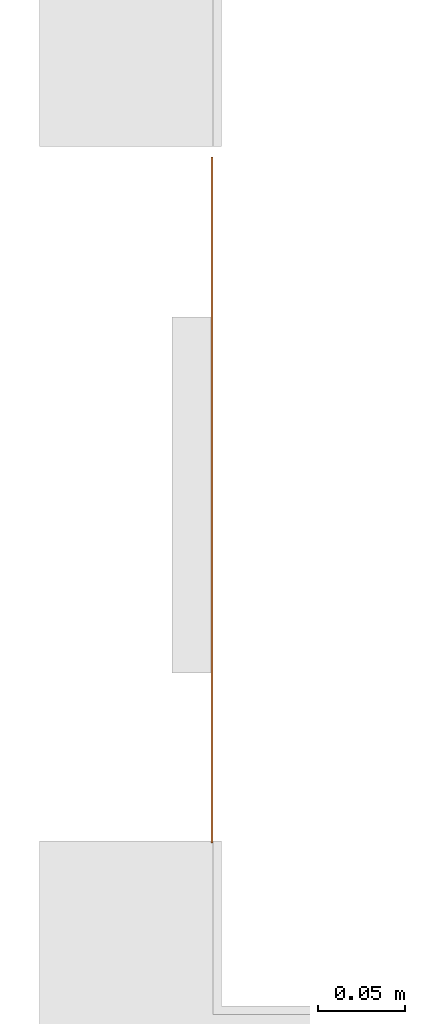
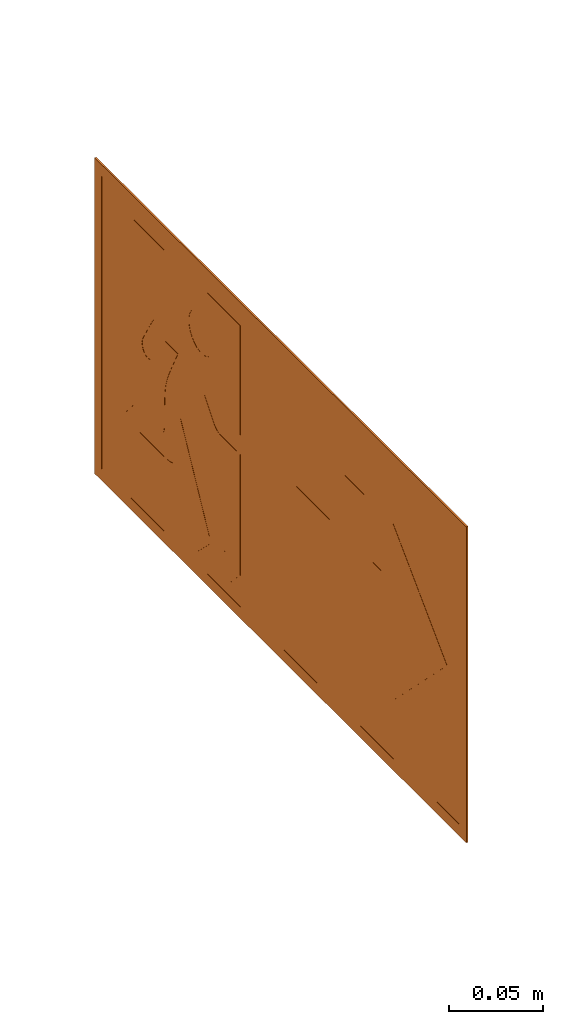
# One storey, part 48 of 119: 1 proxy.
"""IFC2X3 building model written with IfcOpenShell, lengths in metres."""

from ifc_helpers import new_model, entity, si_unit, converted_unit, derived_unit, direction, frame, frame_2d, origin, origin_2d_with_axis, place, context, subcontext, project, spatial, polyline, circle_curve, parameter, trimmed, segment, composite_curve, rectangle, outline, extrude, source, transform, mapped, material, material_list, type_object, type_shapes, element, save


model = new_model("IFC2X3")

# Units and contexts
model_context = context("Model", 3, precision=1e-05, world=origin(), true_north=direction((6.12303176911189e-17, 1.0)))
body_context = subcontext(model_context, "Body", "Model", "MODEL_VIEW")
ifc_project = project(units=[si_unit("LENGTHUNIT", "METRE"), si_unit("AREAUNIT", "SQUARE_METRE"), si_unit("VOLUMEUNIT", "CUBIC_METRE"), converted_unit("PLANEANGLEUNIT", "DEGREE", entity("IfcRatioMeasure", 0.0174532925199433), si_unit("PLANEANGLEUNIT", "RADIAN"), dimensions=[0, 0, 0, 0, 0, 0, 0]), si_unit("MASSUNIT", "GRAM", prefix="KILO"), derived_unit("MASSDENSITYUNIT", [(si_unit("MASSUNIT", "GRAM", prefix="KILO"), 1), (si_unit("LENGTHUNIT", "METRE"), -3)]), derived_unit("MOMENTOFINERTIAUNIT", [(si_unit("LENGTHUNIT", "METRE"), 4)]), si_unit("TIMEUNIT", "SECOND"), si_unit("FREQUENCYUNIT", "HERTZ"), si_unit("THERMODYNAMICTEMPERATUREUNIT", "DEGREE_CELSIUS"), derived_unit("THERMALTRANSMITTANCEUNIT", [(si_unit("MASSUNIT", "GRAM", prefix="KILO"), 1), (si_unit("THERMODYNAMICTEMPERATUREUNIT", "KELVIN"), -1), (si_unit("TIMEUNIT", "SECOND"), -3)]), derived_unit("VOLUMETRICFLOWRATEUNIT", [(si_unit("LENGTHUNIT", "METRE"), 3), (si_unit("TIMEUNIT", "SECOND"), -1)]), si_unit("ELECTRICCURRENTUNIT", "AMPERE"), si_unit("ELECTRICVOLTAGEUNIT", "VOLT"), si_unit("POWERUNIT", "WATT"), si_unit("FORCEUNIT", "NEWTON", prefix="KILO"), si_unit("ILLUMINANCEUNIT", "LUX"), si_unit("LUMINOUSFLUXUNIT", "LUMEN"), si_unit("LUMINOUSINTENSITYUNIT", "CANDELA"), derived_unit("USERDEFINED", [(si_unit("MASSUNIT", "GRAM", prefix="KILO"), -1), (si_unit("LENGTHUNIT", "METRE"), -2), (si_unit("TIMEUNIT", "SECOND"), 3), (si_unit("LUMINOUSFLUXUNIT", "LUMEN"), 1)]), derived_unit("LINEARVELOCITYUNIT", [(si_unit("LENGTHUNIT", "METRE"), 1), (si_unit("TIMEUNIT", "SECOND"), -1)]), si_unit("PRESSUREUNIT", "PASCAL"), derived_unit("USERDEFINED", [(si_unit("LENGTHUNIT", "METRE"), -2), (si_unit("MASSUNIT", "GRAM", prefix="KILO"), 1), (si_unit("TIMEUNIT", "SECOND"), -2)]), derived_unit("LINEARFORCEUNIT", [(si_unit("MASSUNIT", "GRAM", prefix="KILO"), 1), (si_unit("LENGTHUNIT", "METRE"), 1), (si_unit("TIMEUNIT", "SECOND"), -2), (si_unit("LENGTHUNIT", "METRE"), -1)]), derived_unit("PLANARFORCEUNIT", [(si_unit("MASSUNIT", "GRAM", prefix="KILO"), 1), (si_unit("LENGTHUNIT", "METRE"), 1), (si_unit("TIMEUNIT", "SECOND"), -2), (si_unit("LENGTHUNIT", "METRE"), -2)])], contexts=[model_context])

# Site, building, storey
site_placement = place(None, origin())
site = spatial("IfcSite", under=ifc_project, at=site_placement, Name="Default", CompositionType="ELEMENT")
building_placement = place(site_placement, origin())
building = spatial("IfcBuilding", under=site, at=building_placement, CompositionType="ELEMENT")
storey_placement = place(building_placement, origin())
storey = spatial("IfcBuildingStorey", under=building, at=storey_placement, Name="PAV. 01 - TÉRREO", CompositionType="ELEMENT", Elevation=0.0)

# Proxy
ifc_material_1 = material(Name="Plastico branco")
ifc_material_2 = material(Name="Plastico Verde")
ifc_material_list = material_list([ifc_material_1, ifc_material_2])
building_element_proxy_type = type_object("IfcBuildingElementProxyType", Name="Sinalização de orientação - S01 - Indicação do sentido da saída de emergência direita:Distância 12m", PredefinedType="NOTDEFINED", material=ifc_material_1)
shared_shape = source(origin(), body_context, "Body", "SweptSolid", [
    extrude(outline(polyline([(0.0124622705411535, 0.0340163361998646), (0.0116069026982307, 0.0335634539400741), (0.0110082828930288, 0.0323153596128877), (0.0106205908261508, 0.0304379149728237), (0.0103980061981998, 0.0280969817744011), (0.0102947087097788, 0.0254584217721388), (0.0102359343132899, 0.0148408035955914), (0.0100952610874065, 0.0101688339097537), (0.00995272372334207, 0.00797089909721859), (0.00974625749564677, 0.00585117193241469), (0.00946401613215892, 0.00379928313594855), (0.00909414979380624, 0.0018048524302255), (0.00861827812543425, -0.000162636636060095), (0.00799797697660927, -0.00219550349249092), (0.00719098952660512, -0.00439788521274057), (0.00615505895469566, -0.0068739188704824), (0.00484792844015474, -0.00972774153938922), (0.00322734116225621, -0.0130634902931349), (-0.00393772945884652, -0.0270036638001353), (0.00911414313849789, -0.0269659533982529), (0.00975353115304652, -0.0269418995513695), (0.0101589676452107, -0.0269097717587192), (0.0104072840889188, -0.0268684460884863), (0.0105753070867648, -0.026816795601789), (0.0107283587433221, -0.0267465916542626), (0.0108956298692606, -0.0266273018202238), (0.0110992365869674, -0.0264240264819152), (0.0113612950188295, -0.02610186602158), (0.0117039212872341, -0.02562592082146), (0.0121492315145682, -0.0249612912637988), (0.0134363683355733, -0.022926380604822), (0.0220622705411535, -0.00866366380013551), (0.0231418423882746, -0.00739752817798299), (0.024244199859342, -0.00641124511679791), (0.0253551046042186, -0.00568750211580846), (0.026460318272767, -0.0052089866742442), (0.0275456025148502, -0.00495838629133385), (0.0285967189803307, -0.00491838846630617), (0.0295994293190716, -0.00507168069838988), (0.0305394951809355, -0.00540095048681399), (0.0314026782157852, -0.00588888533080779), (0.0321747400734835, -0.00651817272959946), (0.0328414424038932, -0.0072715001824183), (0.033388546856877, -0.00813155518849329), (0.0338018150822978, -0.00908102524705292), (0.0340670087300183, -0.0101025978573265), (0.0341698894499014, -0.0111789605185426), (0.0340962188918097, -0.0122928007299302), (0.0338317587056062, -0.0134268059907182), (0.0333622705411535, -0.0145636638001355), (0.027258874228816, -0.0250738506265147), (0.0231922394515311, -0.0317577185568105), (0.020455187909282, -0.0355759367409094), (0.0183405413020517, -0.0374891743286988), (0.0161486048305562, -0.0384492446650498), (0.0134863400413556, -0.0390450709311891), (0.0103684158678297, -0.0393831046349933), (0.00683771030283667, -0.0395364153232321), (-0.0223273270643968, -0.0395794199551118), (-0.0254276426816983, -0.0395207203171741), (-0.0281392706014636, -0.0392326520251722), (-0.0306250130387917, -0.0385308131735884), (-0.0330476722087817, -0.0372308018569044), (-0.0355700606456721, -0.0351482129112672), (-0.0383972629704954, -0.0320852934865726), (-0.0418729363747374, -0.0278005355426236), (-0.0522577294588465, -0.0145636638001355), (-0.0701177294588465, -0.0145636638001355), (-0.0701177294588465, -0.0855036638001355), (0.0426422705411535, -0.0855036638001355), (0.0426422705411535, 0.0290963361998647), (0.0481022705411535, 0.0290963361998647), (0.0680622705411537, 0.0537563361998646), (0.0426422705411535, 0.0537563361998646), (0.0426422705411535, 0.0764363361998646), (0.0551222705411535, 0.0891363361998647), (-0.0240977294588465, 0.0891363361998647), (-0.0371577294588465, 0.0764363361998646), (-0.0542977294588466, 0.0764363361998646), (-0.039344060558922, 0.0891363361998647), (-0.0579777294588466, 0.0891363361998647), (-0.0701177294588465, 0.0764363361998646), (-0.0701177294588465, -0.00182366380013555), (-0.0500921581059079, -0.00182052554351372), (-0.048376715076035, -0.00187323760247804), (-0.0469973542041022, -0.00203451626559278), (-0.0458400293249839, -0.00235707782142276), (-0.0447906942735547, -0.00289363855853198), (-0.0437353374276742, -0.0036968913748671), (-0.0425823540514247, -0.00480435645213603), (-0.0413011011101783, -0.00621227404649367), (-0.0398712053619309, -0.00790993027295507), (-0.0322577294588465, -0.0173836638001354), (-0.0217377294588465, 0.00417633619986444), (-0.0542977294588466, 0.0709363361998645), (-0.0371577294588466, 0.0709363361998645), (-0.00639772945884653, 0.0127763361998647), (-0.00393772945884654, 0.0340163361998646), (-0.00373167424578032, 0.0366224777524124), (-0.00346846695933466, 0.0389264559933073), (-0.00310194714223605, 0.0409426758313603), (-0.00258595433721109, 0.0426855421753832), (-0.00187432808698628, 0.0441694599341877), (-0.000920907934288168, 0.0454088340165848), (0.000320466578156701, 0.0464180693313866), (0.00189595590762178, 0.0472115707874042), (0.00385172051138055, 0.0478037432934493), (0.00623392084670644, 0.0482089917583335), (0.00908871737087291, 0.0484417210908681), (0.0124622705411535, 0.0485163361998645), (0.0551222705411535, 0.0485163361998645), (0.0426422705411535, 0.0340163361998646), (0.0124622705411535, 0.0340163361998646)]), holes=[composite_curve([segment(trimmed(circle_curve(frame_2d((-0.0288977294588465, -0.0559436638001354), x_axis=(-1.0, 0.0)), 0.0134), [parameter(180.0)], [parameter(360.0)], True, "PARAMETER"), False, "CONTINUOUS"), segment(trimmed(circle_curve(frame_2d((-0.0288977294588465, -0.0559436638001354), x_axis=(-1.0, 0.0)), 0.0134), [parameter(2.03555499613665e-13)], [parameter(180.0)], True, "PARAMETER"), False, "CONTINUOUS")], self_intersect=False)]), frame((-0.112957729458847, -0.00110000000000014, 1.90431633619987), z_axis=(0.0, -1.0, 0.0), x_axis=(-1.0, 0.0, 0.0)), (0.0, 0.0, -1.0), 0.0011),
    extrude(outline(polyline([(-0.102500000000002, -0.197500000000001), (0.102500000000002, -0.197500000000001), (0.102500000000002, 0.197500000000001), (-0.102500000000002, 0.197500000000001), (-0.102500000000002, -0.197500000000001)]), holes=[polyline([(-0.0950000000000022, -0.190000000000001), (-0.0950000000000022, 0.189999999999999), (0.0949999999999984, 0.189999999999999), (0.0949999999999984, -0.190000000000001), (-0.0950000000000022, -0.190000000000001)])]), frame((0.0, -0.0011, 1.9025), z_axis=(0.0, 1.0, 0.0), x_axis=(0.0, 0.0, -1.0)), (0.0, 0.0, 1.0), 0.0011),
    extrude(rectangle(XDim=0.001, YDim=0.38, at=origin_2d_with_axis()), frame((0.0, -0.0005, 1.8075), z_axis=(0.0, 0.0, 1.0), x_axis=(0.0, 1.0, 0.0)), (0.0, 0.0, 1.0), 0.190000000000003),
    extrude(outline(polyline([(-0.0165808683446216, -0.0648778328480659), (0.0648778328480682, -0.0648778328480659), (0.0648778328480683, 0.016580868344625), (0.0289709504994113, 0.0524877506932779), (0.0289709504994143, -0.00190290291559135), (-0.0467319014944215, 0.073799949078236), (-0.0737999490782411, 0.0467319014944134), (0.00190290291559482, -0.0289709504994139), (-0.0524877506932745, -0.028970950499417), (-0.0165808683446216, -0.0648778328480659)])), frame((0.0852288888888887, -0.0011, 1.9025), z_axis=(0.0, 1.0, 0.0), x_axis=(0.707106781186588, 0.0, -0.707106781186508)), (0.0, 0.0, 1.0), 0.0011),
])
type_shapes(building_element_proxy_type, [shared_shape])
proxy_placement = place(storey_placement, frame((37.3738361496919, 0.425057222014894, 0.0), z_axis=(0.0, 0.0, 1.0), x_axis=(0.0, -1.0, 0.0)))
element("IfcBuildingElementProxy", 1, at=proxy_placement, inside=storey, type_object=building_element_proxy_type, material=ifc_material_list, Name="Sinalização de orientação - S01 - Indicação do sentido da saída de emergência direita:Distância 12m", ObjectType="Sinalização de orientação - S01 - Indicação do sentido da saída de emergência direita:Distância 12m", context=body_context, shape_type="MappedRepresentation", body=[
    mapped(shared_shape, transform((0.0, 0.0, 0.0), scale=1.0)),
])

save(model, "model.ifc")
